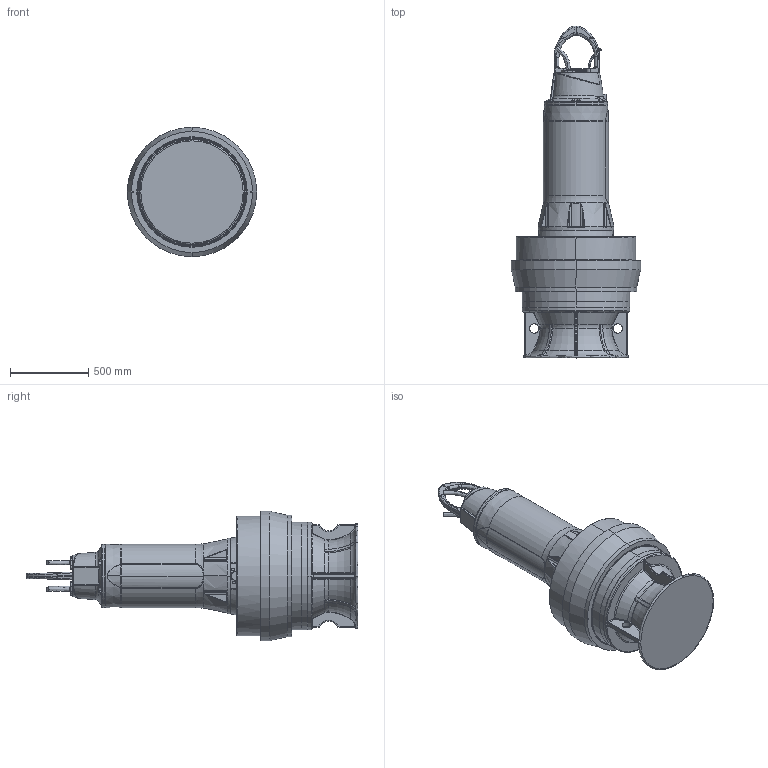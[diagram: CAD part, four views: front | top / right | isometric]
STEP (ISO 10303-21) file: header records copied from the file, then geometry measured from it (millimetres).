
FILE_DESCRIPTION (( 'STEP AP214' ), '1' );
FILE_NAME ('PE5_AFLX0800_STD_A_NG2.STEP', '2017-04-11T06:07:30', ( '' ), ( '' ), 'SwSTEP 2.0', 'SolidWorks 2017', '' );
FILE_SCHEMA (( 'AUTOMOTIVE_DESIGN' ));
Length unit declared in the file: millimetre
Products named in the file (1): PE5_AFLX0800_STD_A_NG2
Bounding box: 828 x 2123.97 x 828 mm (x, y, z)
Volume: 393628578 mm3; surface area: 5863443.6 mm2
Topology: 3 solids, 4 shells, 1380 faces, 3305 edges, 1949 vertices
Faces by surface type: bspline 523, cylinder 278, plane 240, torus 169, cone 146, sphere 24
Entity records: 147518 total; most frequent: CARTESIAN_POINT 104360, ORIENTED_EDGE 6562, DIRECTION 4953, EDGE_CURVE 3281, AXIS2_PLACEMENT_3D 2146, VERTEX_POINT 1949, EDGE_LOOP 1432, UNCERTAINTY_MEASURE_WITH_UNIT 1385
